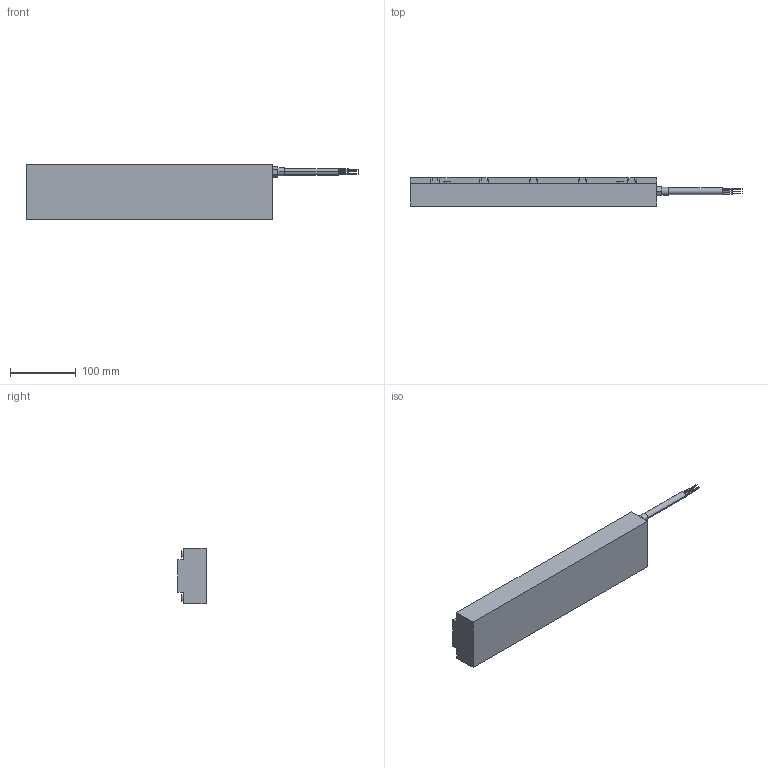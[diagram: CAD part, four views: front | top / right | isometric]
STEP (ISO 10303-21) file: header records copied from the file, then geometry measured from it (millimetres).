
FILE_DESCRIPTION((''),'2;1');
FILE_NAME('IC22_050','2010-03-09T',('brad.winesett'),('Kollmorgen'),'PRO/ENGINEER BY PARAMETRIC TECHNOLOGY CORPORATION, 2006510','PRO/ENGINEER BY PARAMETRIC TECHNOLOGY CORPORATION, 2006510','');
FILE_SCHEMA(('CONFIG_CONTROL_DESIGN'));
Length unit declared in the file: millimetre
Products named in the file (1): IC22_050
Bounding box: 506.2 x 43.3 x 85 mm (x, y, z)
Volume: 1282103.3 mm3; surface area: 120352.8 mm2
Topology: 1 solids, 11 shells, 242 faces, 594 edges, 386 vertices
Faces by surface type: plane 138, cylinder 84, cone 20
Entity records: 7043 total; most frequent: DIRECTION 1248, CARTESIAN_POINT 1203, ORIENTED_EDGE 1108, EDGE_CURVE 574, AXIS2_PLACEMENT_3D 431, VECTOR 386, LINE 386, VERTEX_POINT 386
